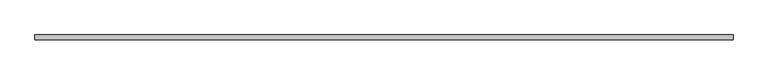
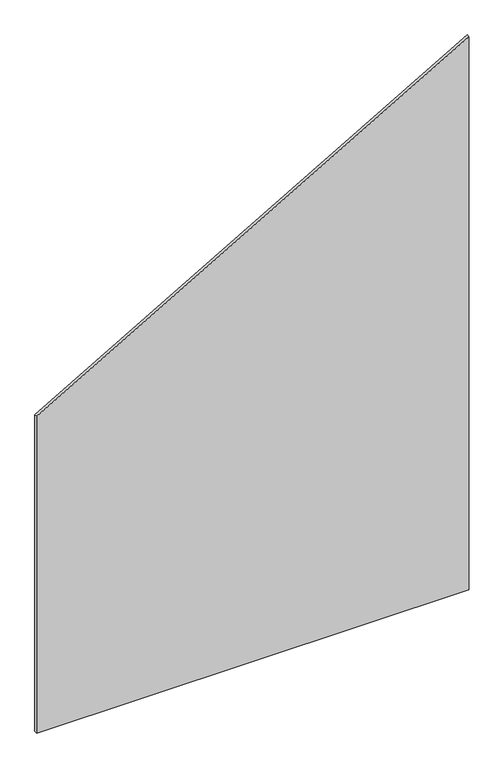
"""IFC4 building model written with IfcOpenShell, lengths in millimetres: plate geometry, 系統嵌板 : 玻璃 1.0cm."""

from ifc_helpers import new_model, si_unit, frame, origin, place, context, project, spatial, polyline, outline, extrude, source, transform, mapped, element, save


def plate_aaef0fc8(model_context):
    return source(origin(), model_context, "Body", "SweptSolid", [
        extrude(outline(polyline([(0.0, -750.0), (0.0, 750.0), (2026.2794416, 750.0), (1160.2540378, -750.0), (0.0, -750.0)])), frame((0.0, -5.0, 0.0), z_axis=(0.0, 1.0, 0.0), x_axis=(0.0, 0.0, 1.0)), (0.0, 0.0, 1.0), 10.0),
    ])


if __name__ == "__main__":
    model = new_model("IFC4")
    model_context = context("Model", 3, world=origin())
    ifc_project = project(units=[si_unit("LENGTHUNIT", "METRE", prefix="MILLI")], contexts=[model_context])
    site = spatial("IfcSite", under=ifc_project)
    building = spatial("IfcBuilding", under=site)
    placement = place(None, origin())
    plate_shape = plate_aaef0fc8(model_context)
    element("IfcPlate", 1, ObjectType="系統嵌板 : 玻璃 1.0cm", at=placement, inside=building, context=model_context, shape_type="MappedRepresentation", body=[
        mapped(plate_shape, transform((0.0, 0.0, 0.0), x_axis=(1.0, 0.0, 0.0), y_axis=(0.0, 1.0, 0.0), z_axis=(0.0, 0.0, 1.0))),
    ])
    save(model, "model.ifc")
